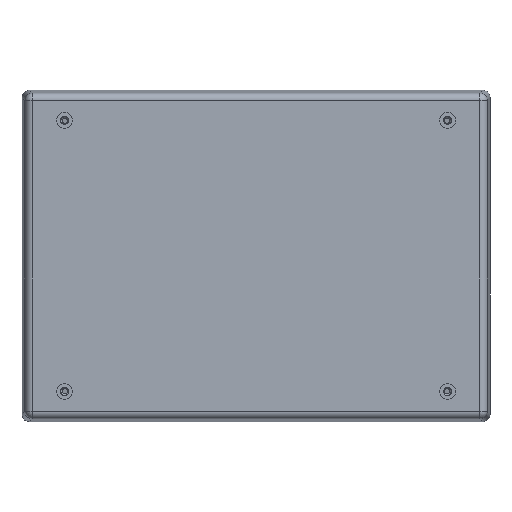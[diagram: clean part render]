
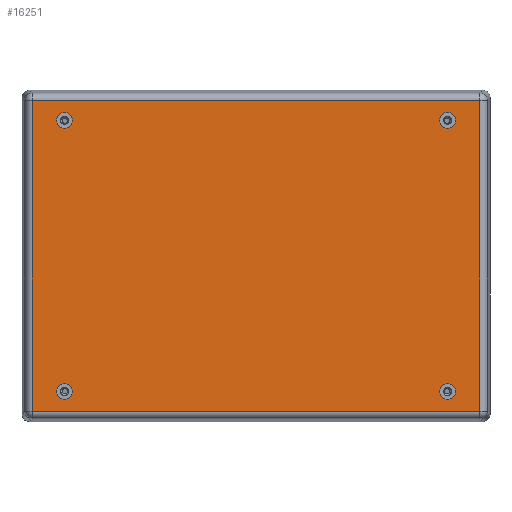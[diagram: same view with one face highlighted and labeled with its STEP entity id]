
A CAD part, front view. The second image highlights one B-rep face of the part: STEP entity #16251.
In plain terms, the highlighted planar face has unit normal (0, -1, 0).
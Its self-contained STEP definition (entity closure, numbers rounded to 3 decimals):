
#29 = VECTOR ( 'NONE', #126, 1000. ) ;
#126 = DIRECTION ( 'NONE',  ( 1., 0., 0. ) ) ;
#317 = VERTEX_POINT ( 'NONE', #6040 ) ;
#516 = ORIENTED_EDGE ( 'NONE', *, *, #854, .T. ) ;
#666 = ORIENTED_EDGE ( 'NONE', *, *, #10395, .F. ) ;
#686 = VERTEX_POINT ( 'NONE', #10105 ) ;
#803 = EDGE_CURVE ( 'NONE', #16472, #1540, #11611, .T. ) ;
#854 = EDGE_CURVE ( 'NONE', #13004, #317, #15367, .T. ) ;
#1540 = VERTEX_POINT ( 'NONE', #9318 ) ;
#1630 = CIRCLE ( 'NONE', #4535, 3.2 ) ;
#1678 = ORIENTED_EDGE ( 'NONE', *, *, #2598, .T. ) ;
#2191 = CIRCLE ( 'NONE', #10043, 3.2 ) ;
#2247 = EDGE_LOOP ( 'NONE', ( #9814, #666 ) ) ;
#2550 = DIRECTION ( 'NONE',  ( 1., 0., 0. ) ) ;
#2598 = EDGE_CURVE ( 'NONE', #14424, #12760, #10213, .T. ) ;
#2648 = EDGE_LOOP ( 'NONE', ( #14895, #16425 ) ) ;
#2672 = EDGE_LOOP ( 'NONE', ( #8992, #5115 ) ) ;
#2862 = FACE_BOUND ( 'NONE', #2672, .T. ) ;
#2866 = DIRECTION ( 'NONE',  ( 0., -1., 0. ) ) ;
#2975 = VERTEX_POINT ( 'NONE', #5467 ) ;
#3101 = FACE_BOUND ( 'NONE', #12577, .T. ) ;
#3151 = AXIS2_PLACEMENT_3D ( 'NONE', #4642, #8908, #7552 ) ;
#3277 = CARTESIAN_POINT ( 'NONE',  ( -89.91, 0., -131.857 ) ) ;
#3298 = AXIS2_PLACEMENT_3D ( 'NONE', #11222, #18244, #12560 ) ;
#3403 = CARTESIAN_POINT ( 'NONE',  ( 89.91, 0., -129.06 ) ) ;
#3426 = EDGE_CURVE ( 'NONE', #686, #14397, #5758, .T. ) ;
#3644 = DIRECTION ( 'NONE',  ( 0., 0., -1. ) ) ;
#3919 = VERTEX_POINT ( 'NONE', #10058 ) ;
#4157 = DIRECTION ( 'NONE',  ( 0., -1., 0. ) ) ;
#4315 = AXIS2_PLACEMENT_3D ( 'NONE', #9848, #17181, #11339 ) ;
#4431 = CARTESIAN_POINT ( 'NONE',  ( 92.707, 0., -129.06 ) ) ;
#4535 = AXIS2_PLACEMENT_3D ( 'NONE', #12926, #2866, #7144 ) ;
#4642 = CARTESIAN_POINT ( 'NONE',  ( -77., 0., -121.1 ) ) ;
#4951 = ORIENTED_EDGE ( 'NONE', *, *, #6426, .T. ) ;
#5115 = ORIENTED_EDGE ( 'NONE', *, *, #13780, .F. ) ;
#5265 = AXIS2_PLACEMENT_3D ( 'NONE', #9893, #12935, #12672 ) ;
#5467 = CARTESIAN_POINT ( 'NONE',  ( 80.2, 0., -12.1 ) ) ;
#5758 = CIRCLE ( 'NONE', #3298, 3.2 ) ;
#5826 = DIRECTION ( 'NONE',  ( 1., 0., 0. ) ) ;
#6040 = CARTESIAN_POINT ( 'NONE',  ( -89.91, 0., -129.06 ) ) ;
#6426 = EDGE_CURVE ( 'NONE', #12760, #13004, #7137, .T. ) ;
#6658 = FACE_OUTER_BOUND ( 'NONE', #9603, .T. ) ;
#7064 = EDGE_CURVE ( 'NONE', #9982, #3919, #13996, .T. ) ;
#7129 = CARTESIAN_POINT ( 'NONE',  ( 89.91, 0., -4.14 ) ) ;
#7137 = LINE ( 'NONE', #13248, #11370 ) ;
#7144 = DIRECTION ( 'NONE',  ( 1., 0., 0. ) ) ;
#7295 = CARTESIAN_POINT ( 'NONE',  ( 77., 0., -12.1 ) ) ;
#7552 = DIRECTION ( 'NONE',  ( 1., 0., 0. ) ) ;
#7663 = DIRECTION ( 'NONE',  ( 0., -1., 0. ) ) ;
#8254 = DIRECTION ( 'NONE',  ( 0., 0., 1. ) ) ;
#8655 = CARTESIAN_POINT ( 'NONE',  ( -73.8, 0., -121.1 ) ) ;
#8683 = VECTOR ( 'NONE', #3644, 1000. ) ;
#8908 = DIRECTION ( 'NONE',  ( 0., -1., 0. ) ) ;
#8943 = AXIS2_PLACEMENT_3D ( 'NONE', #10804, #13516, #17910 ) ;
#8992 = ORIENTED_EDGE ( 'NONE', *, *, #3426, .F. ) ;
#9031 = AXIS2_PLACEMENT_3D ( 'NONE', #10580, #7663, #9072 ) ;
#9072 = DIRECTION ( 'NONE',  ( 1., 0., 0. ) ) ;
#9108 = EDGE_CURVE ( 'NONE', #2975, #11647, #2191, .T. ) ;
#9318 = CARTESIAN_POINT ( 'NONE',  ( -80.2, 0., -121.1 ) ) ;
#9603 = EDGE_LOOP ( 'NONE', ( #12972, #1678, #4951, #516 ) ) ;
#9814 = ORIENTED_EDGE ( 'NONE', *, *, #803, .F. ) ;
#9848 = CARTESIAN_POINT ( 'NONE',  ( 77., 0., -12.1 ) ) ;
#9893 = CARTESIAN_POINT ( 'NONE',  ( 77., 0., -121.1 ) ) ;
#9982 = VERTEX_POINT ( 'NONE', #13114 ) ;
#10043 = AXIS2_PLACEMENT_3D ( 'NONE', #7295, #11708, #5826 ) ;
#10058 = CARTESIAN_POINT ( 'NONE',  ( 80.2, 0., -121.1 ) ) ;
#10105 = CARTESIAN_POINT ( 'NONE',  ( -73.8, 0., -12.1 ) ) ;
#10213 = LINE ( 'NONE', #11371, #15104 ) ;
#10395 = EDGE_CURVE ( 'NONE', #1540, #16472, #11482, .T. ) ;
#10580 = CARTESIAN_POINT ( 'NONE',  ( 77., 0., -121.1 ) ) ;
#10804 = CARTESIAN_POINT ( 'NONE',  ( -94.05, 0., -133.2 ) ) ;
#11222 = CARTESIAN_POINT ( 'NONE',  ( -77., 0., -12.1 ) ) ;
#11339 = DIRECTION ( 'NONE',  ( 1., 0., 0. ) ) ;
#11370 = VECTOR ( 'NONE', #11705, 1000. ) ;
#11371 = CARTESIAN_POINT ( 'NONE',  ( 89.91, 0., -1.343 ) ) ;
#11411 = CIRCLE ( 'NONE', #9031, 3.2 ) ;
#11482 = CIRCLE ( 'NONE', #18428, 3.2 ) ;
#11611 = CIRCLE ( 'NONE', #3151, 3.2 ) ;
#11647 = VERTEX_POINT ( 'NONE', #16204 ) ;
#11705 = DIRECTION ( 'NONE',  ( -1., 0., 0. ) ) ;
#11708 = DIRECTION ( 'NONE',  ( 0., -1., 0. ) ) ;
#11905 = CARTESIAN_POINT ( 'NONE',  ( -80.2, 0., -12.1 ) ) ;
#12560 = DIRECTION ( 'NONE',  ( 1., 0., 0. ) ) ;
#12577 = EDGE_LOOP ( 'NONE', ( #17013, #13640 ) ) ;
#12672 = DIRECTION ( 'NONE',  ( 1., 0., 0. ) ) ;
#12760 = VERTEX_POINT ( 'NONE', #7129 ) ;
#12926 = CARTESIAN_POINT ( 'NONE',  ( -77., 0., -12.1 ) ) ;
#12935 = DIRECTION ( 'NONE',  ( 0., -1., 0. ) ) ;
#12972 = ORIENTED_EDGE ( 'NONE', *, *, #14609, .T. ) ;
#13004 = VERTEX_POINT ( 'NONE', #16506 ) ;
#13114 = CARTESIAN_POINT ( 'NONE',  ( 73.8, 0., -121.1 ) ) ;
#13248 = CARTESIAN_POINT ( 'NONE',  ( -92.707, 0., -4.14 ) ) ;
#13369 = LINE ( 'NONE', #4431, #29 ) ;
#13399 = EDGE_CURVE ( 'NONE', #3919, #9982, #11411, .T. ) ;
#13516 = DIRECTION ( 'NONE',  ( 0., -1., 0. ) ) ;
#13640 = ORIENTED_EDGE ( 'NONE', *, *, #15447, .F. ) ;
#13780 = EDGE_CURVE ( 'NONE', #14397, #686, #1630, .T. ) ;
#13996 = CIRCLE ( 'NONE', #5265, 3.2 ) ;
#14397 = VERTEX_POINT ( 'NONE', #11905 ) ;
#14424 = VERTEX_POINT ( 'NONE', #3403 ) ;
#14609 = EDGE_CURVE ( 'NONE', #317, #14424, #13369, .T. ) ;
#14895 = ORIENTED_EDGE ( 'NONE', *, *, #13399, .F. ) ;
#15082 = PLANE ( 'NONE',  #8943 ) ;
#15104 = VECTOR ( 'NONE', #8254, 1000. ) ;
#15130 = CIRCLE ( 'NONE', #4315, 3.2 ) ;
#15367 = LINE ( 'NONE', #3277, #8683 ) ;
#15447 = EDGE_CURVE ( 'NONE', #11647, #2975, #15130, .T. ) ;
#15522 = FACE_BOUND ( 'NONE', #2247, .T. ) ;
#16204 = CARTESIAN_POINT ( 'NONE',  ( 73.8, 0., -12.1 ) ) ;
#16251 = ADVANCED_FACE ( 'NONE', ( #6658, #3101, #18451, #15522, #2862 ), #15082, .T. ) ;
#16425 = ORIENTED_EDGE ( 'NONE', *, *, #7064, .F. ) ;
#16472 = VERTEX_POINT ( 'NONE', #8655 ) ;
#16506 = CARTESIAN_POINT ( 'NONE',  ( -89.91, 0., -4.14 ) ) ;
#17013 = ORIENTED_EDGE ( 'NONE', *, *, #9108, .F. ) ;
#17181 = DIRECTION ( 'NONE',  ( 0., -1., 0. ) ) ;
#17910 = DIRECTION ( 'NONE',  ( 0., 0., -1. ) ) ;
#18244 = DIRECTION ( 'NONE',  ( 0., -1., 0. ) ) ;
#18408 = CARTESIAN_POINT ( 'NONE',  ( -77., 0., -121.1 ) ) ;
#18428 = AXIS2_PLACEMENT_3D ( 'NONE', #18408, #4157, #2550 ) ;
#18451 = FACE_BOUND ( 'NONE', #2648, .T. ) ;
